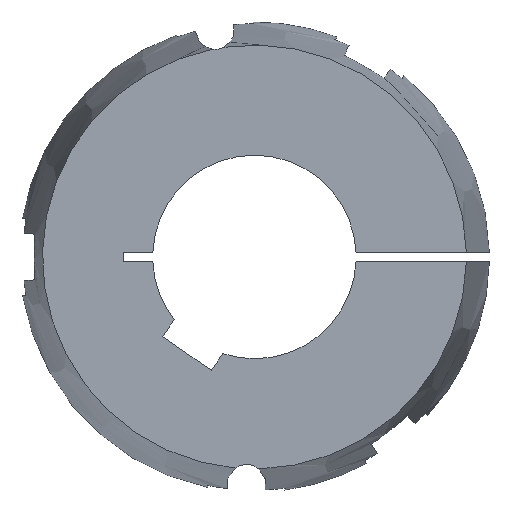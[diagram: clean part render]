
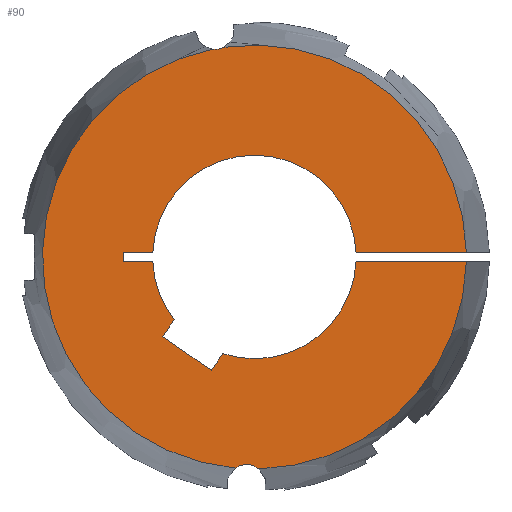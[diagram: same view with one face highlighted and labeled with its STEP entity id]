
A CAD part, left-side view. The second image highlights one B-rep face of the part: STEP entity #90.
In plain terms, the highlighted planar face has unit normal (-1, 0, 0).
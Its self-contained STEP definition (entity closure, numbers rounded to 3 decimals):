
#90 = ADVANCED_FACE( '', ( #140 ), #141, .F. );
#140 = FACE_OUTER_BOUND( '', #208, .T. );
#141 = PLANE( '', #209 );
#208 = EDGE_LOOP( '', ( #369, #370, #371, #372, #373, #374, #375, #376, #377, #378, #379, #380, #381, #382, #383, #384 ) );
#209 = AXIS2_PLACEMENT_3D( '', #385, #386, #387 );
#369 = ORIENTED_EDGE( '', *, *, #548, .F. );
#370 = ORIENTED_EDGE( '', *, *, #601, .F. );
#371 = ORIENTED_EDGE( '', *, *, #570, .T. );
#372 = ORIENTED_EDGE( '', *, *, #583, .T. );
#373 = ORIENTED_EDGE( '', *, *, #581, .T. );
#374 = ORIENTED_EDGE( '', *, *, #578, .T. );
#375 = ORIENTED_EDGE( '', *, *, #587, .T. );
#376 = ORIENTED_EDGE( '', *, *, #602, .T. );
#377 = ORIENTED_EDGE( '', *, *, #603, .T. );
#378 = ORIENTED_EDGE( '', *, *, #604, .T. );
#379 = ORIENTED_EDGE( '', *, *, #605, .T. );
#380 = ORIENTED_EDGE( '', *, *, #606, .T. );
#381 = ORIENTED_EDGE( '', *, *, #572, .T. );
#382 = ORIENTED_EDGE( '', *, *, #607, .F. );
#383 = ORIENTED_EDGE( '', *, *, #551, .F. );
#384 = ORIENTED_EDGE( '', *, *, #608, .F. );
#385 = CARTESIAN_POINT( '', ( -89., 0., 0. ) );
#386 = DIRECTION( '', ( 1., 0., 0. ) );
#387 = DIRECTION( '', ( 0., 1., 0. ) );
#548 = EDGE_CURVE( '', #649, #651, #652, .F. );
#551 = EDGE_CURVE( '', #655, #657, #658, .F. );
#570 = EDGE_CURVE( '', #693, #691, #694, .T. );
#572 = EDGE_CURVE( '', #696, #697, #698, .T. );
#578 = EDGE_CURVE( '', #709, #707, #710, .T. );
#581 = EDGE_CURVE( '', #714, #709, #715, .T. );
#583 = EDGE_CURVE( '', #691, #714, #717, .T. );
#587 = EDGE_CURVE( '', #707, #721, #723, .T. );
#601 = EDGE_CURVE( '', #693, #649, #745, .T. );
#602 = EDGE_CURVE( '', #721, #746, #747, .T. );
#603 = EDGE_CURVE( '', #746, #748, #749, .T. );
#604 = EDGE_CURVE( '', #748, #750, #751, .T. );
#605 = EDGE_CURVE( '', #750, #752, #753, .T. );
#606 = EDGE_CURVE( '', #752, #696, #754, .T. );
#607 = EDGE_CURVE( '', #657, #697, #755, .T. );
#608 = EDGE_CURVE( '', #651, #655, #756, .T. );
#649 = VERTEX_POINT( '', #815 );
#651 = VERTEX_POINT( '', #828 );
#652 = CIRCLE( '', #829, 5.25 );
#655 = VERTEX_POINT( '', #843 );
#657 = VERTEX_POINT( '', #861 );
#658 = CIRCLE( '', #862, 5.25 );
#691 = VERTEX_POINT( '', #935 );
#693 = VERTEX_POINT( '', #938 );
#694 = LINE( '', #939, #940 );
#696 = VERTEX_POINT( '', #948 );
#697 = VERTEX_POINT( '', #949 );
#698 = LINE( '', #950, #951 );
#707 = VERTEX_POINT( '', #969 );
#709 = VERTEX_POINT( '', #972 );
#710 = LINE( '', #973, #974 );
#714 = VERTEX_POINT( '', #980 );
#715 = LINE( '', #981, #982 );
#717 = CIRCLE( '', #985, 27.5 );
#721 = VERTEX_POINT( '', #990 );
#723 = LINE( '', #993, #994 );
#745 = CIRCLE( '', #1019, 57.277 );
#746 = VERTEX_POINT( '', #1020 );
#747 = CIRCLE( '', #1021, 27.5 );
#748 = VERTEX_POINT( '', #1022 );
#749 = LINE( '', #1023, #1024 );
#750 = VERTEX_POINT( '', #1025 );
#751 = LINE( '', #1026, #1027 );
#752 = VERTEX_POINT( '', #1028 );
#753 = LINE( '', #1029, #1030 );
#754 = CIRCLE( '', #1031, 27.5 );
#755 = CIRCLE( '', #1032, 57.277 );
#756 = CIRCLE( '', #1033, 57.277 );
#815 = CARTESIAN_POINT( '', ( -89., -1.169, -57.265 ) );
#828 = CARTESIAN_POINT( '', ( -89., 5.158, -57.044 ) );
#829 = AXIS2_PLACEMENT_3D( '', #1193, #1194, #1195 );
#843 = CARTESIAN_POINT( '', ( -89., 11.362, 56.138 ) );
#861 = CARTESIAN_POINT( '', ( -89., 8.229, 56.682 ) );
#862 = AXIS2_PLACEMENT_3D( '', #1196, #1197, #1198 );
#935 = CARTESIAN_POINT( '', ( -89., -27.472, -1.25 ) );
#938 = CARTESIAN_POINT( '', ( -89., -57.263, -1.25 ) );
#939 = CARTESIAN_POINT( '', ( -89., -63.5, -1.25 ) );
#940 = VECTOR( '', #1228, 1000. );
#948 = CARTESIAN_POINT( '', ( -89., -27.472, 1.25 ) );
#949 = CARTESIAN_POINT( '', ( -89., -57.263, 1.25 ) );
#950 = CARTESIAN_POINT( '', ( -89., 0., 1.25 ) );
#951 = VECTOR( '', #1229, 1000. );
#969 = CARTESIAN_POINT( '', ( -89., 24.793, -21.46 ) );
#972 = CARTESIAN_POINT( '', ( -89., 11.687, -30.638 ) );
#973 = CARTESIAN_POINT( '', ( -89., 11.687, -30.638 ) );
#974 = VECTOR( '', #1234, 1000. );
#980 = CARTESIAN_POINT( '', ( -89., 8.538, -26.141 ) );
#981 = CARTESIAN_POINT( '', ( -89., 8.538, -26.141 ) );
#982 = VECTOR( '', #1237, 1000. );
#985 = AXIS2_PLACEMENT_3D( '', #1239, #1240, #1241 );
#990 = CARTESIAN_POINT( '', ( -89., 21.644, -16.964 ) );
#993 = CARTESIAN_POINT( '', ( -89., 24.793, -21.46 ) );
#994 = VECTOR( '', #1247, 1000. );
#1019 = AXIS2_PLACEMENT_3D( '', #1281, #1282, #1283 );
#1020 = CARTESIAN_POINT( '', ( -89., 27.472, -1.25 ) );
#1021 = AXIS2_PLACEMENT_3D( '', #1284, #1285, #1286 );
#1022 = CARTESIAN_POINT( '', ( -89., 35.5, -1.25 ) );
#1023 = CARTESIAN_POINT( '', ( -89., 0., -1.25 ) );
#1024 = VECTOR( '', #1287, 1000. );
#1025 = CARTESIAN_POINT( '', ( -89., 35.5, 1.25 ) );
#1026 = CARTESIAN_POINT( '', ( -89., 35.5, -1.25 ) );
#1027 = VECTOR( '', #1288, 1000. );
#1028 = CARTESIAN_POINT( '', ( -89., 27.472, 1.25 ) );
#1029 = CARTESIAN_POINT( '', ( -89., 35.5, 1.25 ) );
#1030 = VECTOR( '', #1289, 1000. );
#1031 = AXIS2_PLACEMENT_3D( '', #1290, #1291, #1292 );
#1032 = AXIS2_PLACEMENT_3D( '', #1293, #1294, #1295 );
#1033 = AXIS2_PLACEMENT_3D( '', #1296, #1297, #1298 );
#1193 = CARTESIAN_POINT( '', ( -89., 2.141, -61.34 ) );
#1194 = DIRECTION( '', ( 1., 0., 0. ) );
#1195 = DIRECTION( '', ( 0., 1., 0. ) );
#1196 = CARTESIAN_POINT( '', ( -89., 10.652, 61.34 ) );
#1197 = DIRECTION( '', ( 1., 0., 0. ) );
#1198 = DIRECTION( '', ( 0., 1., 0. ) );
#1228 = DIRECTION( '', ( 0., 1., 0. ) );
#1229 = DIRECTION( '', ( 0., -1., 0. ) );
#1234 = DIRECTION( '', ( 0., 0.819, 0.574 ) );
#1237 = DIRECTION( '', ( 0., 0.574, -0.819 ) );
#1239 = CARTESIAN_POINT( '', ( -89., 0., 0. ) );
#1240 = DIRECTION( '', ( 1., 0., 0. ) );
#1241 = DIRECTION( '', ( 0., 0., -1. ) );
#1247 = DIRECTION( '', ( 0., -0.574, 0.819 ) );
#1281 = CARTESIAN_POINT( '', ( -89., 0., 0. ) );
#1282 = DIRECTION( '', ( 1., 0., 0. ) );
#1283 = DIRECTION( '', ( 0., 1., 0. ) );
#1284 = CARTESIAN_POINT( '', ( -89., 0., 0. ) );
#1285 = DIRECTION( '', ( 1., 0., 0. ) );
#1286 = DIRECTION( '', ( 0., 0., -1. ) );
#1287 = DIRECTION( '', ( 0., 1., 0. ) );
#1288 = DIRECTION( '', ( 0., 0., 1. ) );
#1289 = DIRECTION( '', ( 0., -1., 0. ) );
#1290 = CARTESIAN_POINT( '', ( -89., 0., 0. ) );
#1291 = DIRECTION( '', ( 1., 0., 0. ) );
#1292 = DIRECTION( '', ( 0., 0., -1. ) );
#1293 = CARTESIAN_POINT( '', ( -89., 0., 0. ) );
#1294 = DIRECTION( '', ( 1., 0., 0. ) );
#1295 = DIRECTION( '', ( 0., 1., 0. ) );
#1296 = CARTESIAN_POINT( '', ( -89., 0., 0. ) );
#1297 = DIRECTION( '', ( 1., 0., 0. ) );
#1298 = DIRECTION( '', ( 0., 1., 0. ) );
